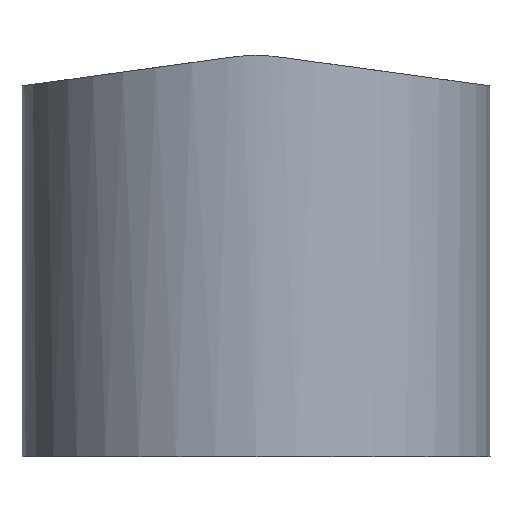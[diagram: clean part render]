
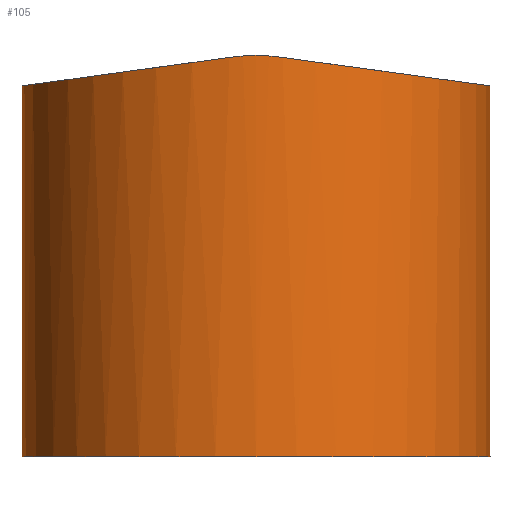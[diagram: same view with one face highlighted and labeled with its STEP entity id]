
A CAD part, left-side view. The second image highlights one B-rep face of the part: STEP entity #105.
In plain terms, the highlighted cylindrical face has radius 4.445 mm (diameter 8.89 mm), a full revolution.
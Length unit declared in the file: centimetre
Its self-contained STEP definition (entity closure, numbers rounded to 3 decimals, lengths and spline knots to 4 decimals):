
#34=CIRCLE('',#112,0.4445);
#35=CYLINDRICAL_SURFACE('',#111,0.4445);
#36=B_SPLINE_CURVE_WITH_KNOTS('',3,(#146,#147,#148,#149,#150,#151),.UNSPECIFIED.,
 .F.,.U.,(4,2,4),(0.,0.0253,0.0506),.UNSPECIFIED.);
#37=B_SPLINE_CURVE_WITH_KNOTS('',3,(#153,#154,#155,#156,#157,#158),.UNSPECIFIED.,
 .F.,.U.,(4,2,4),(0.,0.0102,0.0506),.UNSPECIFIED.);
#38=B_SPLINE_CURVE_WITH_KNOTS('',3,(#169,#170,#171,#172,#173,#174),.UNSPECIFIED.,
 .F.,.U.,(4,2,4),(0.,0.0253,0.0506),.UNSPECIFIED.);
#39=B_SPLINE_CURVE_WITH_KNOTS('',3,(#175,#176,#177,#178,#179,#180),.UNSPECIFIED.,
 .F.,.U.,(4,2,4),(0.,0.0102,0.0506),.UNSPECIFIED.);
#48=VERTEX_POINT('',#130);
#49=VERTEX_POINT('',#131);
#50=VERTEX_POINT('',#135);
#51=VERTEX_POINT('',#136);
#52=VERTEX_POINT('',#152);
#53=VERTEX_POINT('',#159);
#54=VERTEX_POINT('',#183);
#55=ELLIPSE('',#108,0.4487,0.4445);
#56=ELLIPSE('',#110,0.4487,0.4445);
#57=EDGE_CURVE('',#48,#49,#55,.T.);
#59=EDGE_CURVE('',#50,#51,#56,.T.);
#61=EDGE_CURVE('',#51,#52,#36,.T.);
#62=EDGE_CURVE('',#53,#50,#37,.T.);
#64=EDGE_CURVE('',#52,#48,#38,.T.);
#65=EDGE_CURVE('',#49,#53,#39,.T.);
#66=EDGE_CURVE('',#54,#54,#34,.T.);
#79=ORIENTED_EDGE('',*,*,#59,.T.);
#80=ORIENTED_EDGE('',*,*,#61,.T.);
#81=ORIENTED_EDGE('',*,*,#64,.T.);
#82=ORIENTED_EDGE('',*,*,#57,.T.);
#83=ORIENTED_EDGE('',*,*,#65,.T.);
#84=ORIENTED_EDGE('',*,*,#62,.T.);
#85=ORIENTED_EDGE('',*,*,#66,.T.);
#91=EDGE_LOOP('',(#79,#80,#81,#82,#83,#84));
#92=EDGE_LOOP('',(#85));
#98=FACE_BOUND('',#91,.T.);
#99=FACE_BOUND('',#92,.T.);
#105=ADVANCED_FACE('',(#98,#99),#35,.T.);
#108=AXIS2_PLACEMENT_3D('',#129,#115,#116);
#110=AXIS2_PLACEMENT_3D('',#134,#119,#120);
#111=AXIS2_PLACEMENT_3D('',#181,#123,#124);
#112=AXIS2_PLACEMENT_3D('',#182,#125,#126);
#115=DIRECTION('',(0.,0.136,-0.991));
#116=DIRECTION('',(0.,0.445,0.061));
#119=DIRECTION('',(0.,-0.136,-0.991));
#120=DIRECTION('',(0.,0.445,-0.061));
#123=DIRECTION('',(0.,0.,1.));
#124=DIRECTION('',(0.445,0.,0.));
#125=DIRECTION('',(0.,0.,1.));
#126=DIRECTION('',(0.445,0.,0.));
#129=CARTESIAN_POINT('',(0.,0.,0.7651));
#130=CARTESIAN_POINT('',(0.4417,-0.0503,0.7582));
#131=CARTESIAN_POINT('',(-0.4417,-0.0503,0.7582));
#134=CARTESIAN_POINT('',(0.,0.,0.7651));
#135=CARTESIAN_POINT('',(-0.4417,0.0503,0.7582));
#136=CARTESIAN_POINT('',(0.4417,0.0503,0.7582));
#146=CARTESIAN_POINT('',(0.4417,0.0503,0.7582));
#147=CARTESIAN_POINT('',(0.4426,0.042,0.7594));
#148=CARTESIAN_POINT('',(0.4433,0.0336,0.7603));
#149=CARTESIAN_POINT('',(0.4443,0.0168,0.7616));
#150=CARTESIAN_POINT('',(0.4445,0.0084,0.762));
#151=CARTESIAN_POINT('',(0.4445,0.,0.762));
#152=CARTESIAN_POINT('',(0.4445,0.,0.762));
#153=CARTESIAN_POINT('',(-0.4445,0.,0.762));
#154=CARTESIAN_POINT('',(-0.4445,0.0034,0.762));
#155=CARTESIAN_POINT('',(-0.4445,0.0068,0.7619));
#156=CARTESIAN_POINT('',(-0.4441,0.0236,0.7614));
#157=CARTESIAN_POINT('',(-0.4432,0.037,0.76));
#158=CARTESIAN_POINT('',(-0.4417,0.0503,0.7582));
#159=CARTESIAN_POINT('',(-0.4445,0.,0.762));
#169=CARTESIAN_POINT('',(0.4445,0.,0.762));
#170=CARTESIAN_POINT('',(0.4445,-0.0084,0.762));
#171=CARTESIAN_POINT('',(0.4443,-0.0168,0.7616));
#172=CARTESIAN_POINT('',(0.4433,-0.0336,0.7603));
#173=CARTESIAN_POINT('',(0.4426,-0.042,0.7594));
#174=CARTESIAN_POINT('',(0.4417,-0.0503,0.7582));
#175=CARTESIAN_POINT('',(-0.4417,-0.0503,0.7582));
#176=CARTESIAN_POINT('',(-0.442,-0.0469,0.7587));
#177=CARTESIAN_POINT('',(-0.4424,-0.0436,0.7591));
#178=CARTESIAN_POINT('',(-0.4439,-0.0269,0.7611));
#179=CARTESIAN_POINT('',(-0.4445,-0.0135,0.762));
#180=CARTESIAN_POINT('',(-0.4445,0.,0.762));
#181=CARTESIAN_POINT('',(0.,0.,0.));
#182=CARTESIAN_POINT('',(0.,0.,0.));
#183=CARTESIAN_POINT('',(0.4445,0.,0.));
